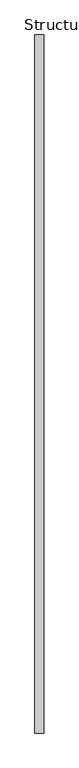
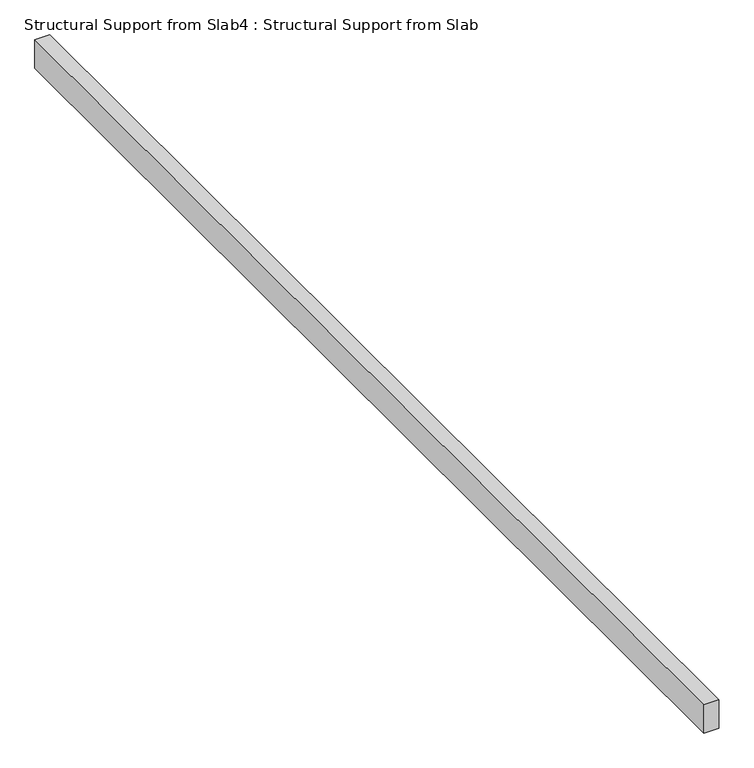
"""IFC4 building model written with IfcOpenShell, lengths in millimetres: beam geometry, Structural Support from Slab4 : Structural Support from Slab."""

from ifc_helpers import new_model, si_unit, frame, origin, place, context, project, spatial, polyline, outline, extrude, source, transform, mapped, element, save


def structural_support_from_slab4_structural_support_from_slab_b1f46c81(model_context):
    return source(origin(), model_context, "Body", "SweptSolid", [
        extrude(outline(polyline([(-12537.3639562, 156.8566481), (-12689.7639562, 156.8566481), (-12689.7639562, 11995.9222731), (-12537.3639562, 11995.9222731), (-12537.3639562, 156.8566481)])), frame((0.0, 0.0, 4114.8), z_axis=(0.0, 0.0, 1.0), x_axis=(1.0, 0.0, 0.0)), (0.0, 0.0, 1.0), 304.8),
    ])


if __name__ == "__main__":
    model = new_model("IFC4")
    model_context = context("Model", 3, world=origin())
    ifc_project = project(units=[si_unit("LENGTHUNIT", "METRE", prefix="MILLI")], contexts=[model_context])
    site = spatial("IfcSite", under=ifc_project)
    building = spatial("IfcBuilding", under=site)
    placement = place(None, origin())
    structural_support_from_slab4_structural_support_from_slab_shape = structural_support_from_slab4_structural_support_from_slab_b1f46c81(model_context)
    element("IfcBeam", 1, ObjectType="Structural Support from Slab4 : Structural Support from Slab", at=placement, inside=building, context=model_context, shape_type="MappedRepresentation", body=[
        mapped(structural_support_from_slab4_structural_support_from_slab_shape, transform((0.0, 0.0, 0.0), x_axis=(1.0, 0.0, 0.0), y_axis=(0.0, 1.0, 0.0), z_axis=(0.0, 0.0, 1.0))),
    ])
    save(model, "model.ifc")
